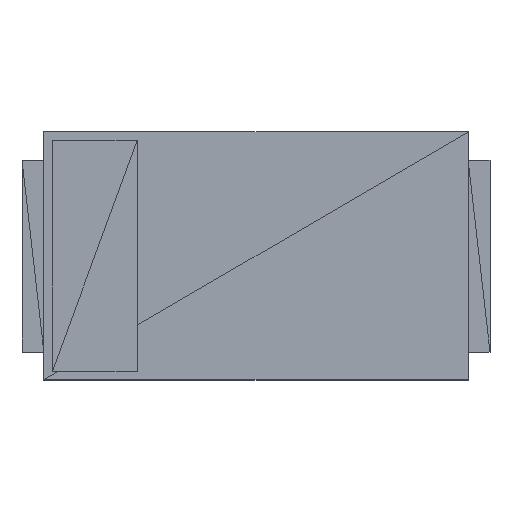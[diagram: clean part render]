
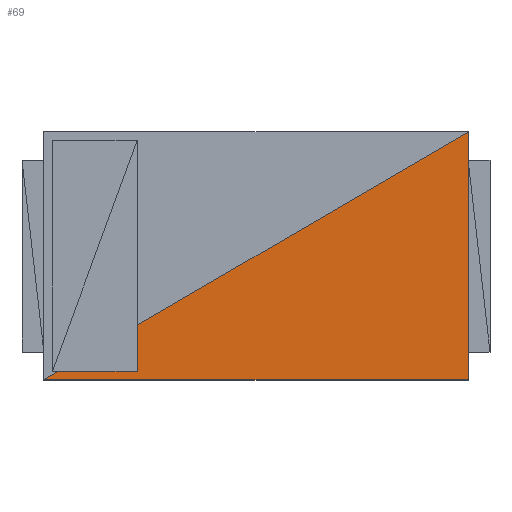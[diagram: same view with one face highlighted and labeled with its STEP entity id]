
A CAD part, top view. The second image highlights one B-rep face of the part: STEP entity #69.
In plain terms, the highlighted planar face has unit normal (0, 0, 1).
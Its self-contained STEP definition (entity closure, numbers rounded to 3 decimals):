
#69=ADVANCED_FACE('',(#75),#70,.T.);
#70=PLANE('',#71);
#71=AXIS2_PLACEMENT_3D('',#72,#73,#74);
#72=CARTESIAN_POINT('',(-1.543,-0.902,1.803));
#73=DIRECTION('',(0.0,0.0,1.0));
#74=DIRECTION('',(0.,1.,0.));
#75=FACE_OUTER_BOUND('',#76,.T.);
#76=EDGE_LOOP('',(#77,#87,#97));
#80=CARTESIAN_POINT('',(1.543,-0.902,1.803));
#79=VERTEX_POINT('',#80);
#82=CARTESIAN_POINT('',(-1.543,-0.902,1.803));
#81=VERTEX_POINT('',#82);
#78=EDGE_CURVE('',#79,#81,#83,.T.);
#83=LINE('',#80,#85);
#85=VECTOR('',#86,3.086);
#86=DIRECTION('',(-1.0,0.0,0.0));
#77=ORIENTED_EDGE('',*,*,#78,.F.);
#90=CARTESIAN_POINT('',(1.543,0.902,1.803));
#89=VERTEX_POINT('',#90);
#88=EDGE_CURVE('',#89,#79,#93,.T.);
#93=LINE('',#90,#95);
#95=VECTOR('',#96,1.803);
#96=DIRECTION('',(0.0,-1.0,0.0));
#87=ORIENTED_EDGE('',*,*,#88,.F.);
#98=EDGE_CURVE('',#81,#89,#103,.T.);
#103=LINE('',#82,#105);
#105=VECTOR('',#106,3.574);
#106=DIRECTION('',(0.863,0.505,0.0));
#97=ORIENTED_EDGE('',*,*,#98,.F.);
